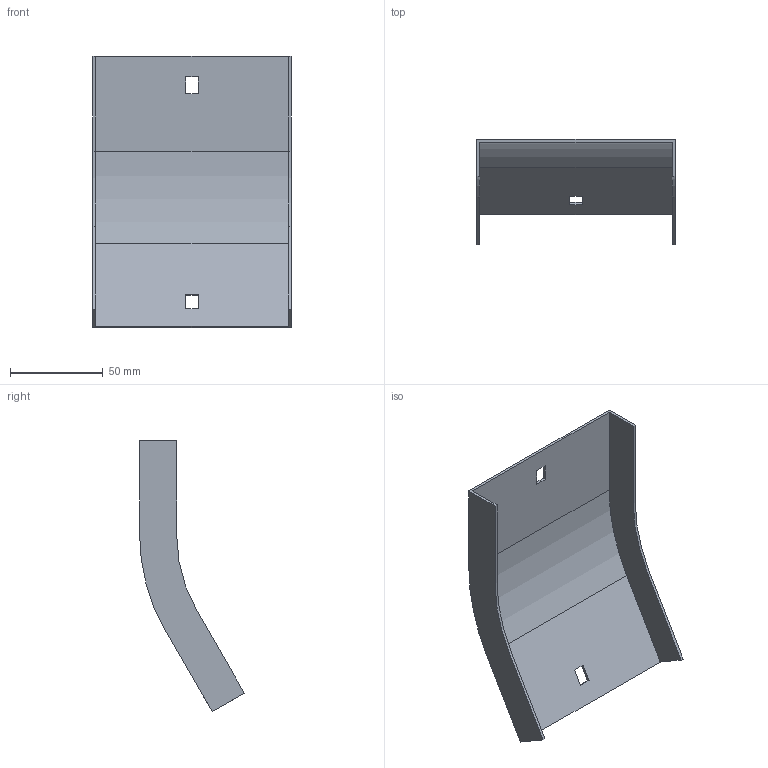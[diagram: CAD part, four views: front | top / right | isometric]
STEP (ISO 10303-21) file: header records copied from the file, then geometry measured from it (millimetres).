
FILE_DESCRIPTION (( 'STEP AP214' ), '1' );
FILE_NAME ('35G1C100.step', '2025-02-21T12:41:47', ( '' ), ( '' ), 'SwSTEP 2.0', 'SolidWorks 2023', '' );
FILE_SCHEMA (( 'AUTOMOTIVE_DESIGN' ));
Length unit declared in the file: millimetre
Products named in the file (1): 35G1C100
Bounding box: 107 x 56.52 x 146.29 mm (x, y, z)
Volume: 33046.9 mm3; surface area: 45023.9 mm2
Topology: 1 solids, 1 shells, 26 faces, 72 edges, 48 vertices
Faces by surface type: plane 22, cylinder 4
Entity records: 855 total; most frequent: CARTESIAN_POINT 147, ORIENTED_EDGE 144, DIRECTION 134, EDGE_CURVE 72, VECTOR 64, LINE 64, VERTEX_POINT 48, AXIS2_PLACEMENT_3D 35
